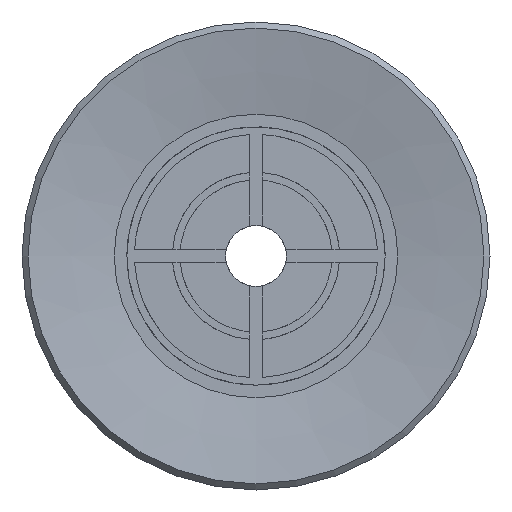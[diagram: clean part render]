
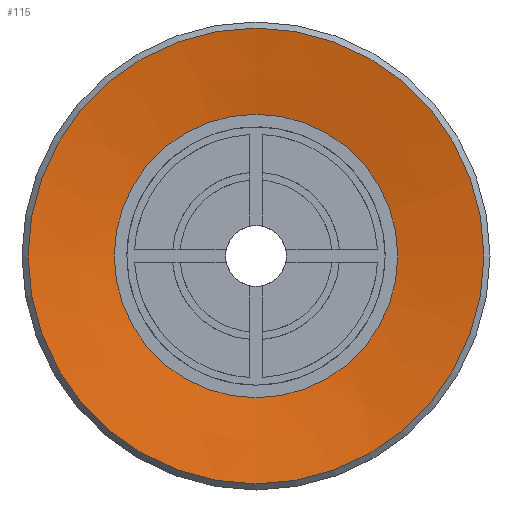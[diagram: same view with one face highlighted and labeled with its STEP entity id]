
A CAD part, front view. The second image highlights one B-rep face of the part: STEP entity #115.
In plain terms, the highlighted conical face has half-angle 80 degrees and reference radius 4.664 mm.
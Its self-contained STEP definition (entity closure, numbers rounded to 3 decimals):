
#115=ADVANCED_FACE('',(#235,#236),#237,.F.);
#235=FACE_OUTER_BOUND('',#378,.T.);
#236=FACE_BOUND('',#379,.T.);
#237=CONICAL_SURFACE('',#380,4.664,1.396);
#378=EDGE_LOOP('',(#713));
#379=EDGE_LOOP('',(#714));
#380=AXIS2_PLACEMENT_3D('',#715,#716,#717);
#713=ORIENTED_EDGE('',*,*,#970,.T.);
#714=ORIENTED_EDGE('',*,*,#913,.F.);
#715=CARTESIAN_POINT('',(0.0,0.5,0.0));
#716=DIRECTION('',(-0.0,-1.0,0.));
#717=DIRECTION('',(0.0,0.,-1.0));
#913=EDGE_CURVE('',#1088,#1088,#1089,.T.);
#970=EDGE_CURVE('',#1177,#1177,#1178,.T.);
#1088=VERTEX_POINT('',#1437);
#1089=CIRCLE('',#1438,4.664);
#1177=VERTEX_POINT('',#1685);
#1178=CIRCLE('',#1686,7.5);
#1437=CARTESIAN_POINT('',(0.0,0.5,-4.664));
#1438=AXIS2_PLACEMENT_3D('',#1755,#1756,#1757);
#1685=CARTESIAN_POINT('',(0.0,0.,-7.5));
#1686=AXIS2_PLACEMENT_3D('',#1826,#1827,#1828);
#1755=CARTESIAN_POINT('',(0.0,0.5,0.0));
#1756=DIRECTION('',(0.0,-1.0,0.));
#1757=DIRECTION('',(0.0,0.,-1.0));
#1826=CARTESIAN_POINT('',(0.0,0.0,0.0));
#1827=DIRECTION('',(0.0,-1.0,0.));
#1828=DIRECTION('',(0.0,0.,-1.0));
